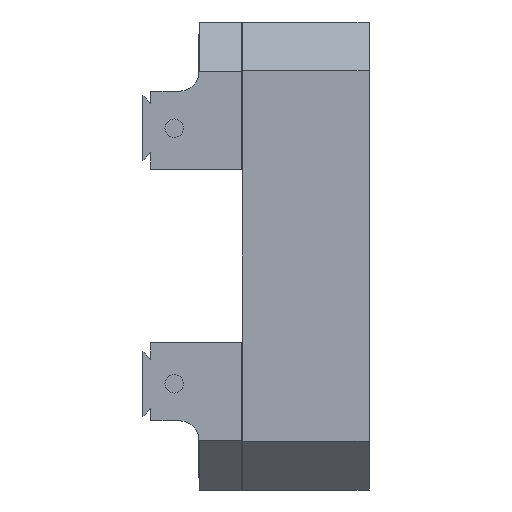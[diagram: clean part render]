
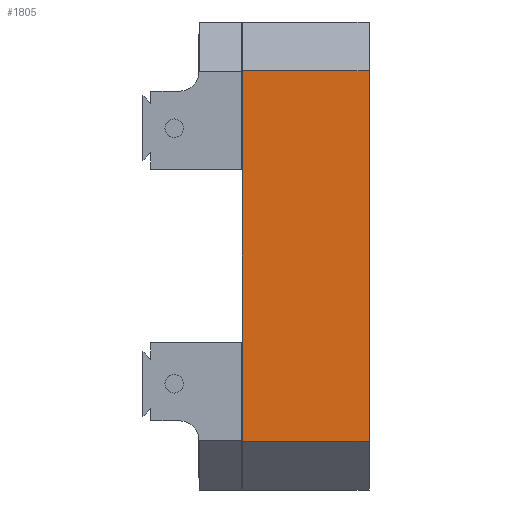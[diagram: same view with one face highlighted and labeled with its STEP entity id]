
A CAD part, left-side view. The second image highlights one B-rep face of the part: STEP entity #1805.
In plain terms, the highlighted planar face has unit normal (-1, 0, 0).
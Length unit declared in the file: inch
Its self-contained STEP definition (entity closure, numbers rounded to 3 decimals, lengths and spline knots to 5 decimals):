
#2 = AXIS2_PLACEMENT_3D ( 'NONE', #2331, #3201, #4991 ) ;
#319 = VERTEX_POINT ( 'NONE', #1619 ) ;
#401 = EDGE_CURVE ( 'NONE', #319, #2526, #3990, .T. ) ;
#805 = ORIENTED_EDGE ( 'NONE', *, *, #4774, .T. ) ;
#1000 = CARTESIAN_POINT ( 'NONE',  ( 0., 1.625, 5.375 ) ) ;
#1102 = VECTOR ( 'NONE', #1604, 39.37008 ) ;
#1391 = CARTESIAN_POINT ( 'NONE',  ( 0., 1.625, 0.625 ) ) ;
#1400 = ORIENTED_EDGE ( 'NONE', *, *, #1845, .T. ) ;
#1411 = VERTEX_POINT ( 'NONE', #1000 ) ;
#1566 = DIRECTION ( 'NONE',  ( 0., 0., -1. ) ) ;
#1604 = DIRECTION ( 'NONE',  ( 0., 0., -1. ) ) ;
#1619 = CARTESIAN_POINT ( 'NONE',  ( 0., 0., 5.375 ) ) ;
#1805 = ADVANCED_FACE ( 'NONE', ( #3721 ), #3639, .F. ) ;
#1845 = EDGE_CURVE ( 'NONE', #319, #1411, #3255, .T. ) ;
#1995 = ORIENTED_EDGE ( 'NONE', *, *, #2673, .F. ) ;
#2263 = VERTEX_POINT ( 'NONE', #1391 ) ;
#2272 = CARTESIAN_POINT ( 'NONE',  ( 0., 0., 5.375 ) ) ;
#2331 = CARTESIAN_POINT ( 'NONE',  ( 0., 0., 6. ) ) ;
#2427 = VECTOR ( 'NONE', #4609, 39.37008 ) ;
#2526 = VERTEX_POINT ( 'NONE', #4969 ) ;
#2642 = VECTOR ( 'NONE', #1566, 39.37008 ) ;
#2673 = EDGE_CURVE ( 'NONE', #2526, #2263, #2815, .T. ) ;
#2815 = LINE ( 'NONE', #3323, #2427 ) ;
#3000 = CARTESIAN_POINT ( 'NONE',  ( 0., 0., 6. ) ) ;
#3201 = DIRECTION ( 'NONE',  ( 1., 0., 0. ) ) ;
#3214 = ORIENTED_EDGE ( 'NONE', *, *, #401, .F. ) ;
#3255 = LINE ( 'NONE', #2272, #4320 ) ;
#3310 = CARTESIAN_POINT ( 'NONE',  ( 0., 1.625, 6. ) ) ;
#3323 = CARTESIAN_POINT ( 'NONE',  ( 0., 0., 0.625 ) ) ;
#3398 = LINE ( 'NONE', #3310, #2642 ) ;
#3639 = PLANE ( 'NONE',  #2 ) ;
#3721 = FACE_OUTER_BOUND ( 'NONE', #4186, .T. ) ;
#3990 = LINE ( 'NONE', #3000, #1102 ) ;
#4186 = EDGE_LOOP ( 'NONE', ( #3214, #1400, #805, #1995 ) ) ;
#4320 = VECTOR ( 'NONE', #4520, 39.37008 ) ;
#4520 = DIRECTION ( 'NONE',  ( 0., 1., 0. ) ) ;
#4609 = DIRECTION ( 'NONE',  ( 0., 1., 0. ) ) ;
#4774 = EDGE_CURVE ( 'NONE', #1411, #2263, #3398, .T. ) ;
#4969 = CARTESIAN_POINT ( 'NONE',  ( 0., 0., 0.625 ) ) ;
#4991 = DIRECTION ( 'NONE',  ( 0., 0., -1. ) ) ;
